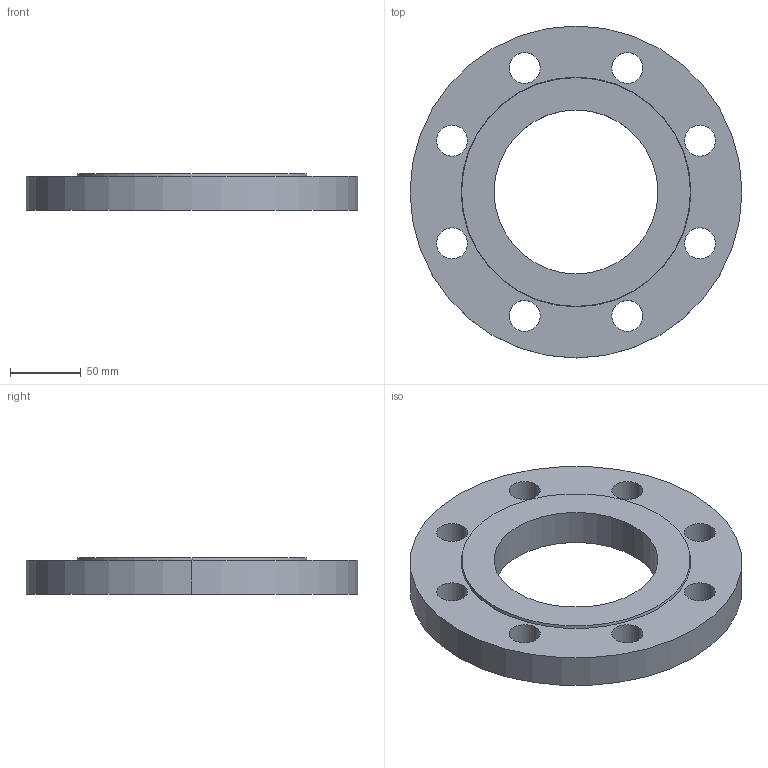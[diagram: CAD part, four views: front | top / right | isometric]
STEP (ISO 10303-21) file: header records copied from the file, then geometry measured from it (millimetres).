
FILE_DESCRIPTION (( 'STEP AP214' ), '1' );
FILE_NAME ('PN40 DN100 Type 01 - Type B Face.STEP', '2019-01-02T00:29:43', ( '' ), ( '' ), 'SwSTEP 2.0', 'SolidWorks 2019', '' );
FILE_SCHEMA (( 'AUTOMOTIVE_DESIGN' ));
Length unit declared in the file: millimetre
Products named in the file (1): PN40 DN100 Type 01 - Type B Face
Bounding box: 235 x 235 x 26 mm (x, y, z)
Volume: 734608.7 mm3; surface area: 100848.1 mm2
Topology: 1 solids, 1 shells, 25 faces, 66 edges, 44 vertices
Faces by surface type: cylinder 20, plane 3, cone 2
Entity records: 874 total; most frequent: DIRECTION 162, CARTESIAN_POINT 136, ORIENTED_EDGE 132, AXIS2_PLACEMENT_3D 70, EDGE_CURVE 66, CIRCLE 44, VERTEX_POINT 44, EDGE_LOOP 44
